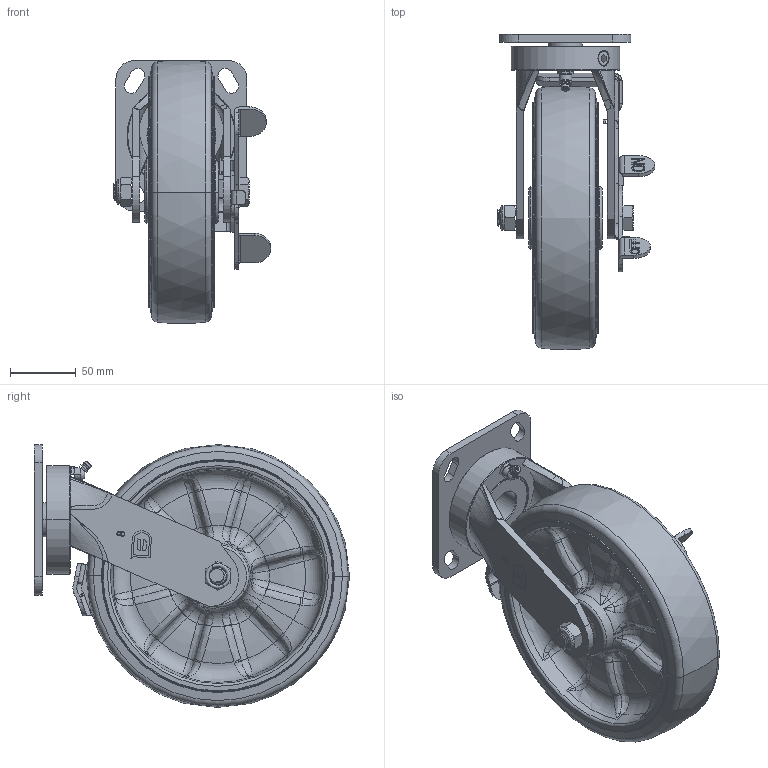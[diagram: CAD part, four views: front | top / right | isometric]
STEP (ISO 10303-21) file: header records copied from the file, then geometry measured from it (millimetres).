
FILE_DESCRIPTION((''),'2;1');
FILE_NAME('PRT0001','2025-06-04T14:59:42',('Administrator'),(''),'CREO PARAMETRIC BY PTC INC, 2022124','CREO PARAMETRIC BY PTC INC, 2022124','');
FILE_SCHEMA(('AP203_CONFIGURATION_CONTROLLED_3D_DESIGN_OF_MECHANICAL_PARTS_AND_ASSEMBLIES_MIM_LF { 1 0 10303 403 2 1 2 }'));
Products named in the file (1): PRT0001
Bounding box: 120.3 x 240.5 x 200.74 mm (x, y, z)
Surface area: 199893.1 mm2 (no closed solid volume)
Topology: 0 solids, 36 shells, 624 faces, 2036 edges, 1360 vertices
Faces by surface type: bspline 309, plane 115, cylinder 80, torus 79, cone 38, sphere 2, extrusion 1
Entity records: 53573 total; most frequent: CARTESIAN_POINT 34200, ORIENTED_EDGE 3255, DIRECTION 2278, EDGE_CURVE 1993, VERTEX_POINT 1360, B_SPLINE_CURVE_WITH_KNOTS 851, AXIS2_PLACEMENT_3D 807, EDGE_LOOP 673
